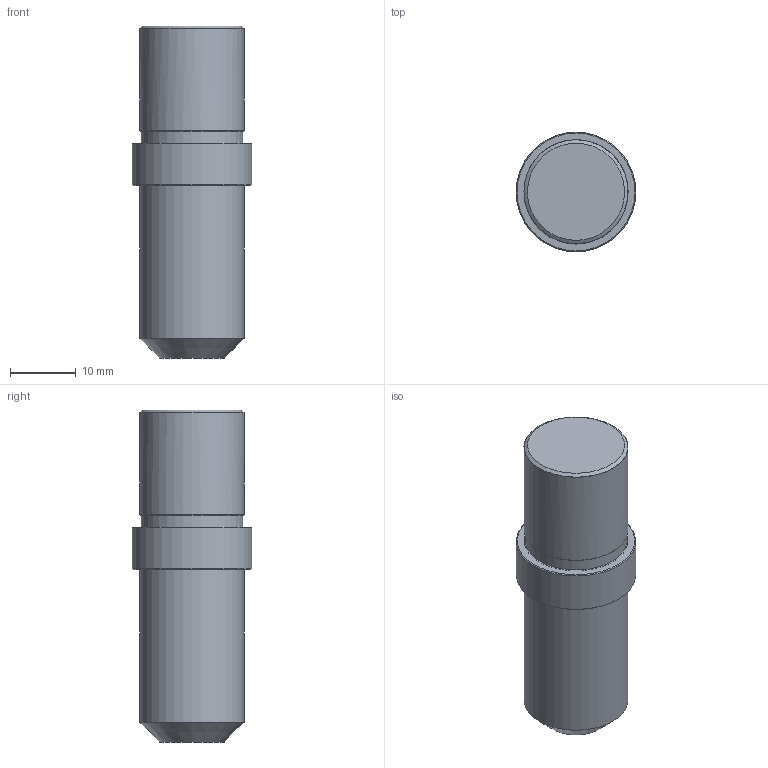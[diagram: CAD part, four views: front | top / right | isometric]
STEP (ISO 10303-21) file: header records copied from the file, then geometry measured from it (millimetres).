
FILE_DESCRIPTION(('Open CASCADE Model'),'2;1');
FILE_NAME('Open CASCADE Shape Model','2020-02-15T21:02:25',('Author'),( 'Open CASCADE'),'Open CASCADE STEP processor 6.8','Open CASCADE 6.8' ,'Unknown');
FILE_SCHEMA(('AUTOMOTIVE_DESIGN { 1 0 10303 214 1 1 1 1 }'));
Length unit declared in the file: millimetre
Products named in the file (14): PCB; Board; Open CASCADE STEP translator 6.8 2.1.1; Free-Models; PCB6; Open_CASCADE_STEP_translator_6.8_1.1.1; 6341204368; Cylinder; 6446773280; Cylinder_2; 6258017360; Cylinder_3
Assembly tree (13 placements, depth 6):
  PCB
    Board
      Open CASCADE STEP translator 6.8 2.1.1
    Free-Models
      PCB6
        Board
          Open_CASCADE_STEP_translator_6.8_1.1.1
        Free-Models
          6341204368
            Cylinder
          6446773280
            Cylinder_2
          6258017360
            Cylinder_3
Bounding box: 18.2 x 18.2 x 50.5 mm (x, y, z)
Volume: 11454.1 mm3; surface area: 4449.6 mm2
Topology: 5 solids, 5 shells, 22 faces, 35 edges, 23 vertices
Faces by surface type: plane 10, cylinder 6, cone 4, bspline 2
Full cylindrical faces by diameter (mm): 1 x1, 15.44 x1, 15.84 x2, 18.2 x1
Entity records: 2107 total; most frequent: CARTESIAN_POINT 1435, DIRECTION 111, ORIENTED_EDGE 70, AXIS2_PLACEMENT_3D 51, EDGE_CURVE 35, PRODUCT_DEFINITION_SHAPE 27, VERTEX_POINT 23, ADVANCED_FACE 22
